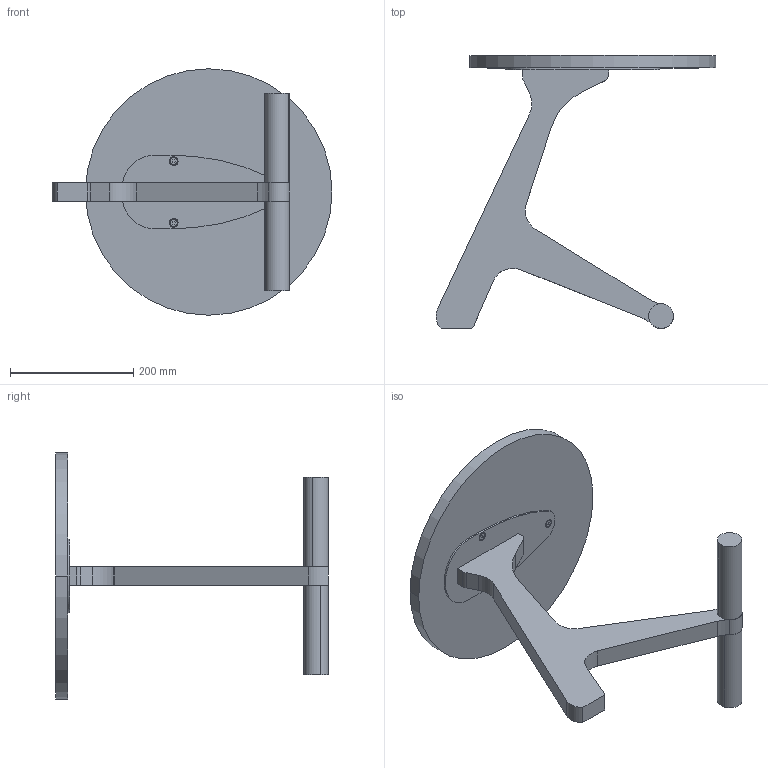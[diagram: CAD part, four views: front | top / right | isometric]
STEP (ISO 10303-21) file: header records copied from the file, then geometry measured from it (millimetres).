
FILE_DESCRIPTION (( 'STEP AP214' ), '1' );
FILE_NAME ('MESA_PUNTERO_2024.STEP', '2024-04-17T10:39:09', ( '' ), ( '' ), 'SwSTEP 2.0', 'SolidWorks 2016', '' );
FILE_SCHEMA (( 'AUTOMOTIVE_DESIGN' ));
Length unit declared in the file: millimetre
Products named in the file (6): TORNILLO M6x16 ALLEN AVELLANADO; BANDEJA MARMOL Ø40CM CON CHAPA PARA PUNTERO; V2_CHAPA_MESAS_AUXILIARES; MESA_PUNTERO_2024; CUERPO_MESA_PUNTERO_DM_CHAPADO_2024; BASE_METÁLICA
Assembly tree (12 placements, depth 2):
  MESA_PUNTERO_2024
    CUERPO_MESA_PUNTERO_DM_CHAPADO_2024
    BASE_METÁLICA  x2
    BANDEJA MARMOL Ø40CM CON CHAPA PARA PUNTERO
    V2_CHAPA_MESAS_AUXILIARES
    TORNILLO M6x16 ALLEN AVELLANADO  x7
Bounding box: 454.47 x 443 x 400 mm (x, y, z)
Volume: 4233718.2 mm3; surface area: 511486.2 mm2
Topology: 12 solids, 12 shells, 199 faces, 449 edges, 290 vertices
Faces by surface type: plane 94, cylinder 61, cone 42, bspline 2
Entity records: 3854 total; most frequent: CARTESIAN_POINT 636, DIRECTION 593, ORIENTED_EDGE 490, EDGE_CURVE 245, AXIS2_PLACEMENT_3D 237, VERTEX_POINT 162, EDGE_LOOP 127, CIRCLE 122
